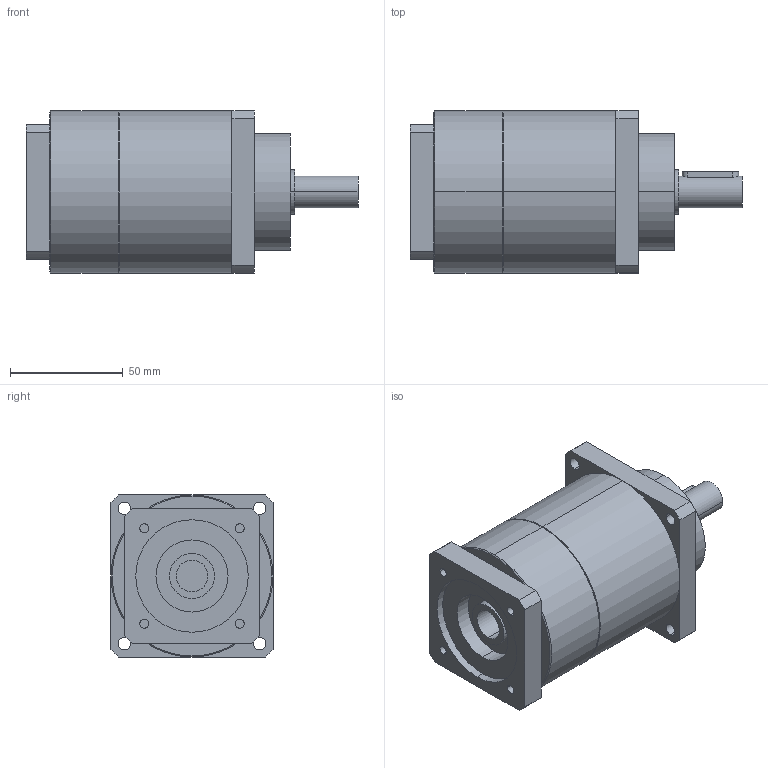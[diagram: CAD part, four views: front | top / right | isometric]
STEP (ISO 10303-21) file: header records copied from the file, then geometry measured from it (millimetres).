
FILE_DESCRIPTION(('CoCreate Modeling STEP Export'),'2;1');
FILE_NAME('GPT75_ig-9-12-16-20-25-28-35-40-50-70-100_14_B5T_14_P18.stp','2014-08-27T13:37:56',(''),(''),'CoCreate Modeling STEP processor for AP214 (Solid Model)','CoCreate Modeling 16.00C 25-Feb-2009 (C) Parametric Technology GmbH','');
FILE_SCHEMA(('AUTOMOTIVE_DESIGN { 1 0 10303 214 1 1 1 1 }'));
Length unit declared in the file: millimetre
Products named in the file (2): GPT75_ig-9-12-16-20-25-28-35-40-50-70-100_14_B5T_14_P18
Assembly tree (1 placements, depth 2):
  GPT75_ig-9-12-16-20-25-28-35-40-50-70-100_14_B5T_14_P18
    GPT75_ig-9-12-16-20-25-28-35-40-50-70-100_14_B5T_14_P18
Bounding box: 147.5 x 72 x 72 mm (x, y, z)
Volume: 440018.9 mm3; surface area: 42530.5 mm2
Topology: 1 solids, 1 shells, 88 faces, 210 edges, 137 vertices
Faces by surface type: cylinder 46, plane 38, cone 4
Entity records: 2592 total; most frequent: CARTESIAN_POINT 732, ORIENTED_EDGE 420, DIRECTION 326, EDGE_CURVE 210, VERTEX_POINT 137, AXIS2_PLACEMENT_3D 119, EDGE_LOOP 109, VECTOR 88
